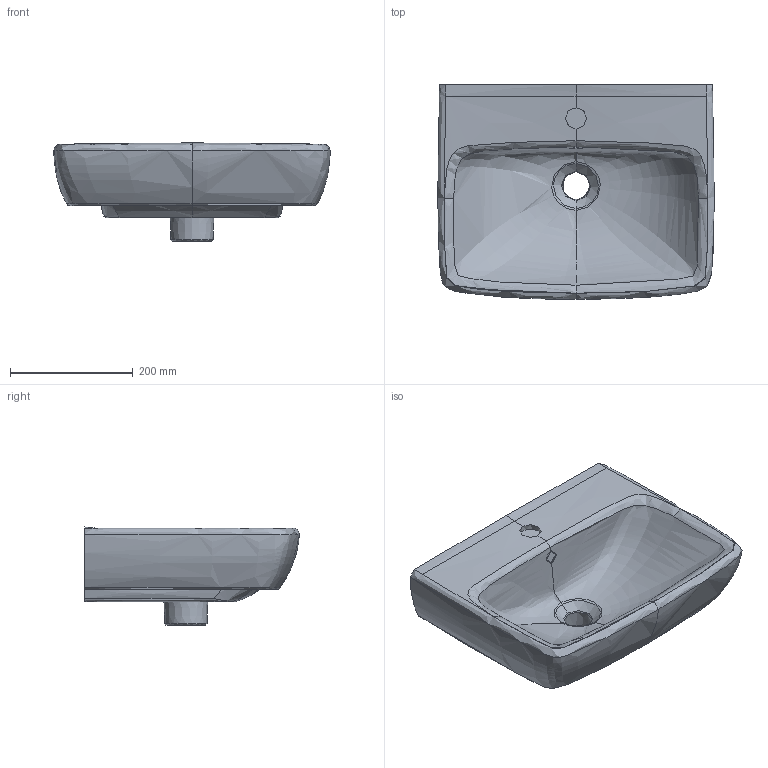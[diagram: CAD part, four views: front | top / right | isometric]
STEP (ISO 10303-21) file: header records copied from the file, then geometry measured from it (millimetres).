
FILE_DESCRIPTION(/* description */ (''),/* implementation_level */ '2;1');
FILE_NAME(/* name */ 'C:\Planerdaten\Export PLA\500.322.01.1\stp\500.322.01.1.stp',/* time_stamp */ '2022-03-17T13:39:27+01:00',/* author */ ('JANAN'),/* organization */ (''),/* preprocessor_version */ 'ST-DEVELOPER v16.13',/* originating_system */ 'Autodesk Inventor 2018',/* authorisation */ '');
FILE_SCHEMA (('AUTOMOTIVE_DESIGN { 1 0 10303 214 3 1 1 }'));
Length unit declared in the file: millimetre
Products named in the file (1): tmp1772.tmp
Bounding box: 450.26 x 350 x 159.99 mm (x, y, z)
Volume: 9609660 mm3; surface area: 514745.2 mm2
Topology: 1 solids, 1 shells, 110 faces, 282 edges, 175 vertices
Faces by surface type: bspline 76, plane 21, cylinder 11, cone 1, torus 1
Full cylindrical faces by diameter (mm): 35 x1
Entity records: 40603 total; most frequent: CARTESIAN_POINT 38308, ORIENTED_EDGE 552, DIRECTION 286, EDGE_CURVE 276, VERTEX_POINT 173, B_SPLINE_CURVE_WITH_KNOTS 132, EDGE_LOOP 117, AXIS2_PLACEMENT_3D 114
